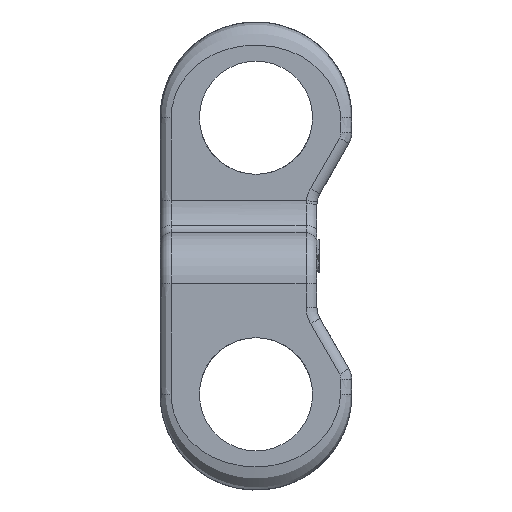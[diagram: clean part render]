
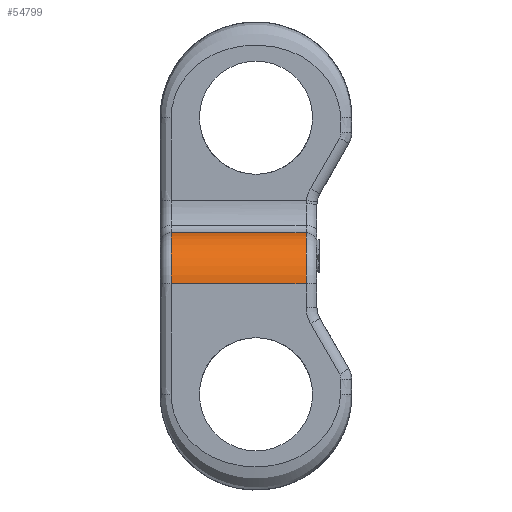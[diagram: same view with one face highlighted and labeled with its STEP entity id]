
A CAD part, left-side view. The second image highlights one B-rep face of the part: STEP entity #54799.
In plain terms, the highlighted cylindrical face has radius 2.35 mm (diameter 4.7 mm), a partial arc.
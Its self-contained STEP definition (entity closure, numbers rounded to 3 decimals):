
#7729=CARTESIAN_POINT('',(-37.925,3.9,-1.275));
#7731=DIRECTION('',(0.,-1.,0.));
#7732=VECTOR('',#7731,6.2);
#7733=CARTESIAN_POINT('',(-37.925,3.9,-1.275));
#7734=LINE('',#7733,#7732);
#17896=DIRECTION('',(0.,-1.,0.));
#17897=VECTOR('',#17896,6.2);
#17898=CARTESIAN_POINT('',(-35.575,3.9,1.075));
#17899=LINE('',#17898,#17897);
#17908=CARTESIAN_POINT('',(-35.575,-2.3,-1.275));
#17909=DIRECTION('',(0.,-1.,0.));
#17910=DIRECTION('',(0.,0.,1.));
#17911=AXIS2_PLACEMENT_3D('',#17908,#17909,#17910);
#17913=CARTESIAN_POINT('',(-35.575,3.9,-1.275));
#17914=DIRECTION('',(0.,1.,0.));
#17915=DIRECTION('',(-1.,0.,0.));
#17916=AXIS2_PLACEMENT_3D('',#17913,#17914,#17915);
#23469=CARTESIAN_POINT('',(-35.575,-2.3,1.075));
#23470=VERTEX_POINT('',#23469);
#23473=CARTESIAN_POINT('',(-37.925,-2.3,-1.275));
#23474=VERTEX_POINT('',#23473);
#23495=VERTEX_POINT('',#7729);
#23498=CARTESIAN_POINT('',(-35.575,3.9,1.075));
#23499=VERTEX_POINT('',#23498);
#54788=CARTESIAN_POINT('',(-35.575,4.431,-1.275));
#54789=DIRECTION('',(0.,-1.,0.));
#54790=DIRECTION('',(0.,0.,1.));
#54791=AXIS2_PLACEMENT_3D('',#54788,#54789,#54790);
#54792=CYLINDRICAL_SURFACE('',#54791,2.35);
#54793=ORIENTED_EDGE('',*,*,#28939,.T.);
#54794=ORIENTED_EDGE('',*,*,#35088,.F.);
#54795=ORIENTED_EDGE('',*,*,#54640,.T.);
#54796=ORIENTED_EDGE('',*,*,#54781,.T.);
#54797=EDGE_LOOP('',(#54793,#54794,#54795,#54796));
#54798=FACE_OUTER_BOUND('',#54797,.F.);
#54799=ADVANCED_FACE('',(#54798),#54792,.T.);
#17912=CIRCLE('',#17911,2.35);
#17917=CIRCLE('',#17916,2.35);
#28939=EDGE_CURVE('',#23470,#23474,#17912,.T.);
#35088=EDGE_CURVE('',#23495,#23474,#7734,.T.);
#54640=EDGE_CURVE('',#23495,#23499,#17917,.T.);
#54781=EDGE_CURVE('',#23499,#23470,#17899,.T.);
